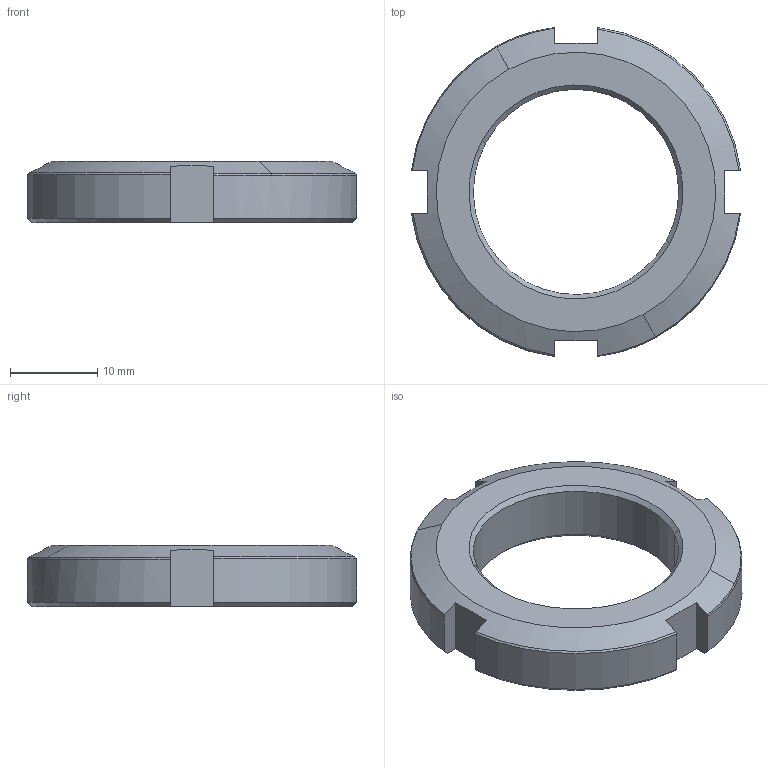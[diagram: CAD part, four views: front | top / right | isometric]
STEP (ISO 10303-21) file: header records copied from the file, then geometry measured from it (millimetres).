
FILE_DESCRIPTION(('CATIA V5 STEP Exchange'),'2;1');
FILE_NAME('\\kjf-102\KJF_TC\Hydraulic_Clamp\Standard\Mounting Base Accessories\MBR\MBR-2507_-\MBR-2507_-_.stp','2026-08-10T03:08:36+00:00',('none'),('none'),'CATIA Version 5 Release 19 SP 6 (IN-10)','CATIA V5 STEP AP203','none');
FILE_SCHEMA(('CONFIG_CONTROL_DESIGN'));
Length unit declared in the file: millimetre
Products named in the file (1): MBR-2510_-
Bounding box: 37.67 x 37.67 x 7 mm (x, y, z)
Volume: 4397.9 mm3; surface area: 2567.4 mm2
Topology: 1 solids, 1 shells, 36 faces, 96 edges, 62 vertices
Faces by surface type: cone 16, plane 14, cylinder 6
Entity records: 1181 total; most frequent: CARTESIAN_POINT 314, ORIENTED_EDGE 192, DIRECTION 130, EDGE_CURVE 96, AXIS2_PLACEMENT_3D 62, VERTEX_POINT 62, VECTOR 38, EDGE_LOOP 38
